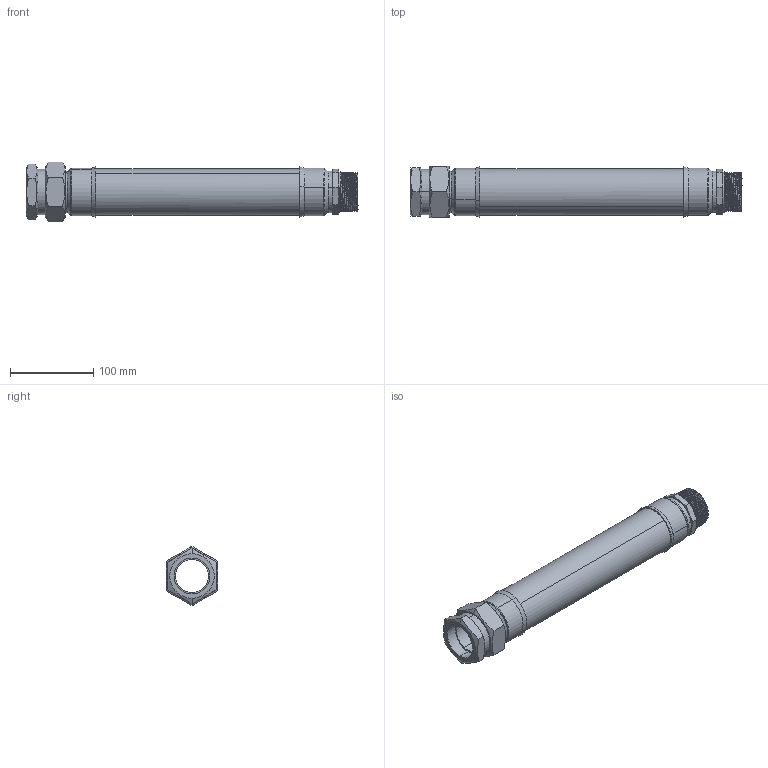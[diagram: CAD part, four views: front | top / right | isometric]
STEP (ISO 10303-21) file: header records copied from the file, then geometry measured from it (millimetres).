
FILE_DESCRIPTION (( 'STEP AP203' ), '1' );
FILE_NAME ('KP_T40-4S.step', '2011-08-08T11:46:49', ( '' ), ( '' ), 'SwSTEP 2.0', 'SolidWorks 2011', '' );
FILE_SCHEMA (( 'CONFIG_CONTROL_DESIGN' ));
Length unit declared in the file: millimetre
Products named in the file (1): KP_T40-4S
Bounding box: 400 x 62 x 71.59 mm (x, y, z)
Volume: 239651.6 mm3; surface area: 146709.8 mm2
Topology: 1 solids, 2 shells, 154 faces, 384 edges, 246 vertices
Faces by surface type: cone 66, plane 54, cylinder 26, bspline 8
Entity records: 17197 total; most frequent: CARTESIAN_POINT 13592, ORIENTED_EDGE 768, DIRECTION 680, EDGE_CURVE 384, AXIS2_PLACEMENT_3D 268, VERTEX_POINT 246, EDGE_LOOP 170, FACE_OUTER_BOUND 154
